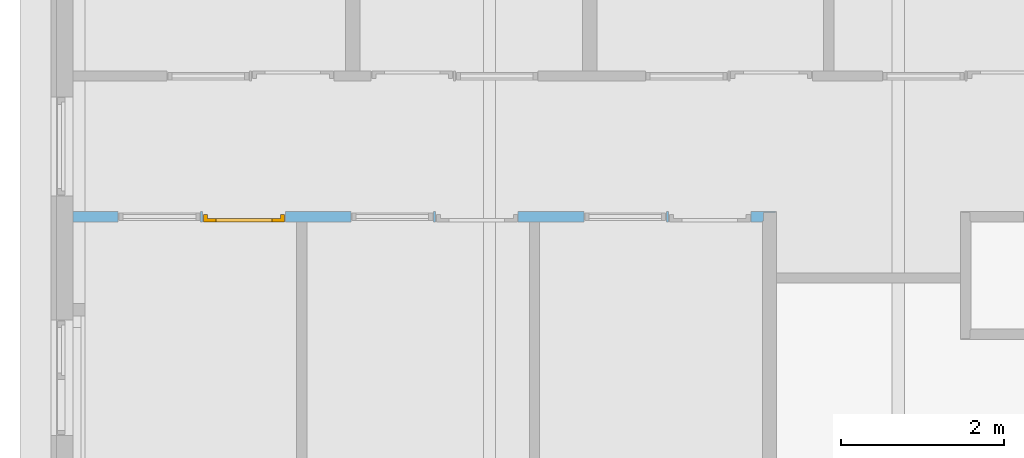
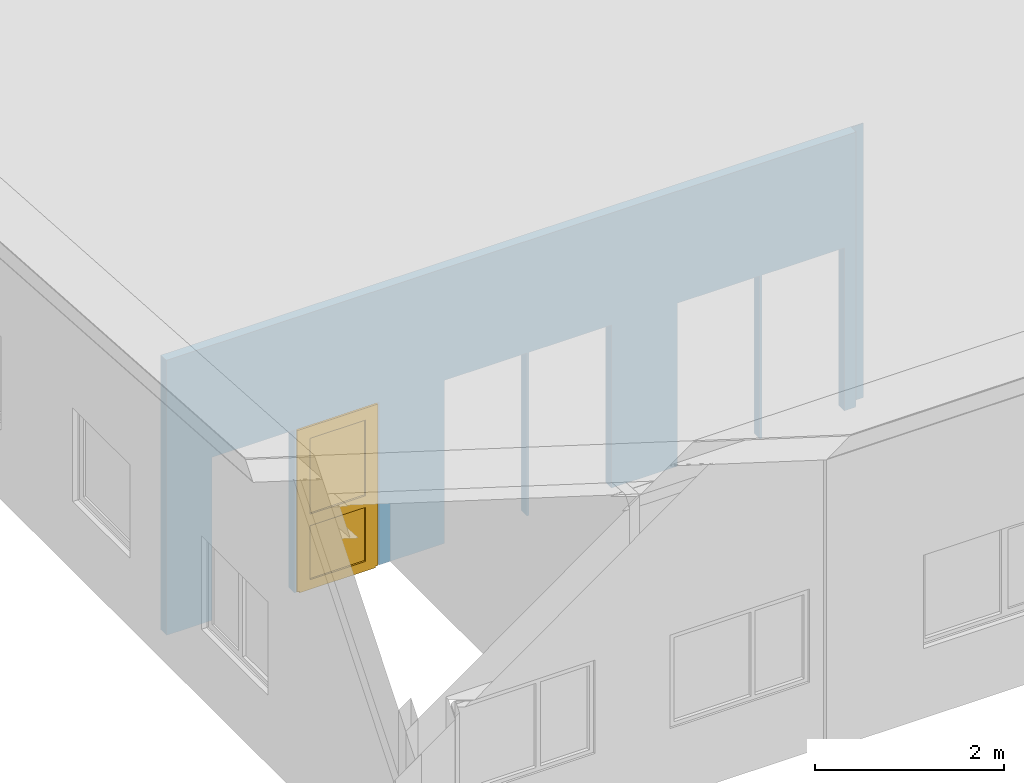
# One storey, part 11 of 37: 1 door, 6 openings, plus 1 element that does not belong to this part.
"""IFC2X3 building model written with IfcOpenShell, lengths in millimetres."""

from ifc_helpers import new_model, entity, si_unit, converted_unit, frame, frame_2d, origin, origin_with_axes, place, context, subcontext, project, spatial, polyline, rectangle, outline, extrude, clip, halfspace, faceted_brep, material, layer, layer_set, layer_usage, type_object, element, fill, save


model = new_model("IFC2X3")

# Units and contexts
model_context = context("Model", 3, precision=1e-05, world=origin())
plan_context = context("Plan", 3, precision=1e-05, world=origin())
body_context = subcontext(model_context, "Body", "Model", "MODEL_VIEW")
ifc_project = project(units=[si_unit("LENGTHUNIT", "METRE", prefix="MILLI"), converted_unit("PLANEANGLEUNIT", "DEGREE", entity("IfcPlaneAngleMeasure", 0.0174532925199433), si_unit("PLANEANGLEUNIT", "RADIAN"), dimensions=[0, 0, 0, 0, 0, 0, 0]), si_unit("AREAUNIT", "SQUARE_METRE"), si_unit("VOLUMEUNIT", "CUBIC_METRE")], contexts=[model_context, plan_context])

# Building, storey
building_placement = place(None, origin())
building = spatial("IfcBuilding", under=ifc_project, at=building_placement, Name="HEKF Administrasjonbygg", CompositionType="ELEMENT")
storey_placement = place(building_placement, frame((0.0, 0.0, 9900.0), z_axis=(0.0, 0.0, 1.0), x_axis=(1.0, 0.0, 0.0)))
storey = spatial("IfcBuildingStorey", under=building, at=storey_placement, Name="Plan 2", CompositionType="ELEMENT", Elevation=9900.0)

# Wall, openings, door
ifc_material_1 = material(Name="gips")
ifc_layer_1 = layer(ifc_material_1, 13.0)
ifc_material_2 = material(Name="riegel stål 100")
ifc_layer_2 = layer(ifc_material_2, 100.0000000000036)
ifc_material_3 = material(Name="gips")
ifc_layer_3 = layer(ifc_material_3, 13.00000000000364)
ifc_layer_set = layer_set([ifc_layer_1, ifc_layer_2, ifc_layer_3])
ifc_layer_usage = layer_usage(ifc_layer_set, "AXIS2", "POSITIVE", 0.0)
wall_placement = place(storey_placement, frame((9899.999999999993, -6924.999999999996, 0.0), z_axis=(0.0, 0.0, 1.0), x_axis=(1.0, -4.311934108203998e-16, 0.0)))
wall = element("IfcWallStandardCase", 1, at=wall_placement, inside=storey, material=ifc_layer_usage, context=body_context, shape_type="Clipping", body=[
    clip(extrude(outline(polyline([(0.0, 0.0), (8437.0, 0.0), (8437.0, 13.0), (8450.0, 13.00000000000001), (8450.0, 113.0), (8600.0, 113.0000000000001), (8600.0, 126.0000000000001), (-5.433036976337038e-14, 126.0), (0.0, 0.0)])), origin_with_axes(), (0.0, 0.0, 1.0), 3561.666666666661), halfspace(frame((0.0, 0.0, 3561.666666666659), z_axis=(1.067272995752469e-16, -0.06651901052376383, -0.9977851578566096), x_axis=(1.0, 0.0, 2.155967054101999e-16)), True)),
])
opening_1_placement = place(wall_placement, frame((6255.0, -2.728484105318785e-12, 0.0), z_axis=(0.0, 1.0, 0.0), x_axis=(0.0, 0.0, 1.0)))
element("IfcOpeningElement", 2, at=opening_1_placement, cuts=wall, Name="Window opening", ObjectType="Opening", context=body_context, shape_type="SweptSolid", body=[
    extrude(rectangle(XDim=2110.0, YDim=1010.0, at=frame_2d((1055.0, 505.0), x_axis=(1.0, 0.0))), origin_with_axes(), (0.0, 0.0, 1.0), 126.0),
])
opening_2_placement = place(wall_placement, frame((554.9999999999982, 0.0, 0.0), z_axis=(0.0, 1.0, 0.0), x_axis=(0.0, 0.0, 1.0)))
element("IfcOpeningElement", 3, at=opening_2_placement, cuts=wall, Name="Window opening", ObjectType="Opening", context=body_context, shape_type="SweptSolid", body=[
    extrude(rectangle(XDim=2110.0, YDim=1010.0, at=frame_2d((1055.0, 505.0), x_axis=(1.0, 0.0))), origin_with_axes(), (0.0, 0.0, 1.0), 126.0),
])
opening_3_placement = place(wall_placement, frame((3404.999999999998, -1.818989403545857e-12, 0.0), z_axis=(0.0, 1.0, 0.0), x_axis=(0.0, 0.0, 1.0)))
element("IfcOpeningElement", 4, at=opening_3_placement, cuts=wall, Name="Window opening", ObjectType="Opening", context=body_context, shape_type="SweptSolid", body=[
    extrude(rectangle(XDim=2110.0, YDim=1010.0, at=frame_2d((1055.0, 505.0), x_axis=(1.0, 0.0))), origin_with_axes(), (0.0, 0.0, 1.0), 126.0),
])
opening_4_placement = place(wall_placement, frame((7290.0, -3.637978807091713e-12, 0.0), z_axis=(0.0, 1.0, 0.0), x_axis=(0.0, 0.0, 1.0)))
element("IfcOpeningElement", 5, at=opening_4_placement, cuts=wall, Name="garasjeport med glassfelter:45x6", ObjectType="Opening", context=body_context, shape_type="SweptSolid", body=[
    extrude(rectangle(XDim=2110.0, YDim=1010.0, at=frame_2d((1055.0, 505.0), x_axis=(1.0, 0.0))), origin_with_axes(), (0.0, 0.0, 1.0), 126.0),
])
opening_5_placement = place(wall_placement, frame((4439.999999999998, -1.818989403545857e-12, 0.0), z_axis=(0.0, 1.0, 0.0), x_axis=(0.0, 0.0, 1.0)))
element("IfcOpeningElement", 6, at=opening_5_placement, cuts=wall, Name="garasjeport med glassfelter:45x6", ObjectType="Opening", context=body_context, shape_type="SweptSolid", body=[
    extrude(rectangle(XDim=2110.0, YDim=1010.0, at=frame_2d((1055.0, 505.0), x_axis=(1.0, 0.0))), origin_with_axes(), (0.0, 0.0, 1.0), 126.0000000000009),
])
opening_6_placement = place(wall_placement, frame((1589.999999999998, -9.094947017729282e-13, 0.0), z_axis=(0.0, 1.0, 0.0), x_axis=(0.0, 0.0, 1.0)))
opening_6 = element("IfcOpeningElement", 7, at=opening_6_placement, cuts=wall, Name="garasjeport med glassfelter:45x6", ObjectType="Opening", context=body_context, shape_type="SweptSolid", body=[
    extrude(rectangle(XDim=2110.0, YDim=1010.0, at=frame_2d((1055.0, 505.0), x_axis=(1.0, 0.0))), origin_with_axes(), (0.0, 0.0, 1.0), 126.0),
])
ifc_material_4 = material()
door_style = type_object("IfcDoorStyle", Name="D112", ConstructionType="NOTDEFINED", OperationType="USERDEFINED", ParameterTakesPrecedence=False, Sizeable=False)
door_placement = place(opening_6_placement, frame((0.0, 0.0, 0.0), z_axis=(1.0, 0.0, 0.0), x_axis=(0.0, 1.0, 0.0)))
door = element("IfcDoor", 8, at=door_placement, inside=storey, type_object=door_style, material=ifc_material_4, Name="D112", OverallHeight=2110.0, OverallWidth=1010.0, context=body_context, shape_type="Brep", body=[
    faceted_brep([(1000.0, 1.000000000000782, 2090.0), (1000.0, 1.00000000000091, -2.816687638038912e-15), (950.0, 1.000000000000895, -2.816687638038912e-15), (950.0, 1.000000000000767, 2090.0), (1000.0, 93.00000000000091, 2.816687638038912e-15), (1000.0, 93.00000000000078, 2090.0), (950.0, 93.00000000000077, 2090.0), (950.0, 93.0000000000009, 2.816687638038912e-15), (1000.0, 1.00000000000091, -2.816687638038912e-15), (1000.0, 1.000000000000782, 2090.0), (1000.0, 93.00000000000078, 2090.0), (1000.0, 93.00000000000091, 2.816687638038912e-15), (950.0, 1.000000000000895, -2.816687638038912e-15), (1000.0, 1.00000000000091, -2.816687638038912e-15), (1000.0, 93.00000000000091, 2.816687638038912e-15), (950.0, 93.0000000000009, 2.816687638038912e-15), (950.0, 1.000000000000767, 2090.0), (950.0, 1.000000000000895, -2.816687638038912e-15), (950.0, 93.0000000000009, 2.816687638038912e-15), (950.0, 93.00000000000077, 2090.0), (1000.0, 1.000000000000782, 2090.0), (950.0, 1.000000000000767, 2090.0), (950.0, 93.00000000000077, 2090.0), (1000.0, 93.00000000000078, 2090.0)], [[[0, 1, 2, 3]], [[4, 5, 6, 7]], [[8, 9, 10, 11]], [[12, 13, 14, 15]], [[16, 17, 18, 19]], [[20, 21, 22, 23]]], orient=[[False], [False], [False], [False], [False], [False]]),
    faceted_brep([(60.0, 1.000000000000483, 2090.0), (60.0, 1.000000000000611, -2.816687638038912e-15), (10.0, 1.000000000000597, -2.816687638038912e-15), (10.0, 1.000000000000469, 2090.0), (60.0, 93.00000000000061, 2.816687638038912e-15), (60.0, 93.00000000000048, 2090.0), (10.0, 93.00000000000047, 2090.0), (10.0, 93.0000000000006, 2.816687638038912e-15), (60.0, 1.000000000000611, -2.816687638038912e-15), (60.0, 1.000000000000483, 2090.0), (60.0, 93.00000000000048, 2090.0), (60.0, 93.00000000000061, 2.816687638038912e-15), (10.0, 1.000000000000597, -2.816687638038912e-15), (60.0, 1.000000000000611, -2.816687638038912e-15), (60.0, 93.00000000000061, 2.816687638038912e-15), (10.0, 93.0000000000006, 2.816687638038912e-15), (10.0, 1.000000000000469, 2090.0), (10.0, 1.000000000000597, -2.816687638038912e-15), (10.0, 93.0000000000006, 2.816687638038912e-15), (10.0, 93.00000000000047, 2090.0), (60.0, 1.000000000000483, 2090.0), (10.0, 1.000000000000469, 2090.0), (10.0, 93.00000000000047, 2090.0), (60.0, 93.00000000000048, 2090.0)], [[[0, 1, 2, 3]], [[4, 5, 6, 7]], [[8, 9, 10, 11]], [[12, 13, 14, 15]], [[16, 17, 18, 19]], [[20, 21, 22, 23]]], orient=[[False], [False], [False], [False], [False], [False]]),
    faceted_brep([(950.0, 1.000000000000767, 2090.0), (950.0, 1.000000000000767, 2040.0), (60.00000000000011, 1.000000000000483, 2040.0), (60.00000000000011, 1.000000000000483, 2090.0), (950.0, 93.00000000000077, 2040.0), (950.0, 93.00000000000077, 2090.0), (60.00000000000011, 93.00000000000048, 2090.0), (60.00000000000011, 93.00000000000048, 2040.0), (950.0, 1.000000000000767, 2040.0), (950.0, 1.000000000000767, 2090.0), (950.0, 93.00000000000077, 2090.0), (950.0, 93.00000000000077, 2040.0), (60.00000000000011, 1.000000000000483, 2040.0), (950.0, 1.000000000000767, 2040.0), (950.0, 93.00000000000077, 2040.0), (60.00000000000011, 93.00000000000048, 2040.0), (60.00000000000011, 1.000000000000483, 2090.0), (60.00000000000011, 1.000000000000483, 2040.0), (60.00000000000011, 93.00000000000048, 2040.0), (60.00000000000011, 93.00000000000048, 2090.0), (950.0, 1.000000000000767, 2090.0), (60.00000000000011, 1.000000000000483, 2090.0), (60.00000000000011, 93.00000000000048, 2090.0), (950.0, 93.00000000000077, 2090.0)], [[[0, 1, 2, 3]], [[4, 5, 6, 7]], [[8, 9, 10, 11]], [[12, 13, 14, 15]], [[16, 17, 18, 19]], [[20, 21, 22, 23]]], orient=[[False], [False], [False], [False], [False], [False]]),
    faceted_brep([(970.0, 1.000000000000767, 2060.0), (970.0, 1.000000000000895, -20.0), (845.0, 1.000000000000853, -20.0), (845.0, 1.000000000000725, 2060.0), (970.0, 41.0000000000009, -20.0), (970.0, 41.00000000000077, 2060.0), (845.0, 41.00000000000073, 2060.0), (845.0, 41.00000000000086, -20.0), (970.0, 1.000000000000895, -20.0), (970.0, 1.000000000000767, 2060.0), (970.0, 41.00000000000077, 2060.0), (970.0, 41.0000000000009, -20.0), (845.0, 1.000000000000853, -20.0), (970.0, 1.000000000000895, -20.0), (970.0, 41.0000000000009, -20.0), (845.0, 41.00000000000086, -20.0), (845.0, 1.000000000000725, 2060.0), (845.0, 1.000000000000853, -20.0), (845.0, 41.00000000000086, -20.0), (845.0, 41.00000000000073, 2060.0), (970.0, 1.000000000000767, 2060.0), (845.0, 1.000000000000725, 2060.0), (845.0, 41.00000000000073, 2060.0), (970.0, 41.00000000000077, 2060.0)], [[[0, 1, 2, 3]], [[4, 5, 6, 7]], [[8, 9, 10, 11]], [[12, 13, 14, 15]], [[16, 17, 18, 19]], [[20, 21, 22, 23]]], orient=[[False], [False], [False], [False], [False], [False]]),
    faceted_brep([(165.0000000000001, 1.000000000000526, 2060.0), (165.0000000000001, 1.000000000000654, -20.0), (40.00000000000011, 1.000000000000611, -20.0), (40.00000000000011, 1.000000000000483, 2060.0), (165.0000000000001, 41.00000000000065, -20.0), (165.0000000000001, 41.00000000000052, 2060.0), (40.00000000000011, 41.00000000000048, 2060.0), (40.00000000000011, 41.00000000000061, -20.0), (165.0000000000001, 1.000000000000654, -20.0), (165.0000000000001, 1.000000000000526, 2060.0), (165.0000000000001, 41.00000000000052, 2060.0), (165.0000000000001, 41.00000000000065, -20.0), (40.00000000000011, 1.000000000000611, -20.0), (165.0000000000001, 1.000000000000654, -20.0), (165.0000000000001, 41.00000000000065, -20.0), (40.00000000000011, 41.00000000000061, -20.0), (40.00000000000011, 1.000000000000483, 2060.0), (40.00000000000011, 1.000000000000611, -20.0), (40.00000000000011, 41.00000000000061, -20.0), (40.00000000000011, 41.00000000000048, 2060.0), (165.0000000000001, 1.000000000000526, 2060.0), (40.00000000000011, 1.000000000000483, 2060.0), (40.00000000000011, 41.00000000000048, 2060.0), (165.0000000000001, 41.00000000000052, 2060.0)], [[[0, 1, 2, 3]], [[4, 5, 6, 7]], [[8, 9, 10, 11]], [[12, 13, 14, 15]], [[16, 17, 18, 19]], [[20, 21, 22, 23]]], orient=[[False], [False], [False], [False], [False], [False]]),
    faceted_brep([(845.0, 1.000000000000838, 105.0), (845.0, 1.000000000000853, -20.0), (165.0000000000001, 1.000000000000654, -20.0), (165.0000000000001, 1.00000000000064, 105.0), (845.0, 41.00000000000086, -20.0), (845.0, 41.00000000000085, 105.0), (165.0000000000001, 41.00000000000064, 105.0), (165.0000000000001, 41.00000000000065, -20.0), (845.0, 1.000000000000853, -20.0), (845.0, 1.000000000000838, 105.0), (845.0, 41.00000000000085, 105.0), (845.0, 41.00000000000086, -20.0), (165.0000000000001, 1.000000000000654, -20.0), (845.0, 1.000000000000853, -20.0), (845.0, 41.00000000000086, -20.0), (165.0000000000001, 41.00000000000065, -20.0), (165.0000000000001, 1.00000000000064, 105.0), (165.0000000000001, 1.000000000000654, -20.0), (165.0000000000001, 41.00000000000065, -20.0), (165.0000000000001, 41.00000000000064, 105.0), (845.0, 1.000000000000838, 105.0), (165.0000000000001, 1.00000000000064, 105.0), (165.0000000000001, 41.00000000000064, 105.0), (845.0, 41.00000000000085, 105.0)], [[[0, 1, 2, 3]], [[4, 5, 6, 7]], [[8, 9, 10, 11]], [[12, 13, 14, 15]], [[16, 17, 18, 19]], [[20, 21, 22, 23]]], orient=[[False], [False], [False], [False], [False], [False]]),
    faceted_brep([(845.0, 1.000000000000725, 2060.0), (845.0, 1.000000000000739, 1935.0), (165.0000000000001, 1.00000000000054, 1935.0), (165.0000000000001, 1.000000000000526, 2060.0), (845.0, 41.00000000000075, 1935.0), (845.0, 41.00000000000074, 2060.0), (165.0000000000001, 41.00000000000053, 2060.0), (165.0000000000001, 41.00000000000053, 1935.0), (845.0, 1.000000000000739, 1935.0), (845.0, 1.000000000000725, 2060.0), (845.0, 41.00000000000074, 2060.0), (845.0, 41.00000000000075, 1935.0), (165.0000000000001, 1.00000000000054, 1935.0), (845.0, 1.000000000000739, 1935.0), (845.0, 41.00000000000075, 1935.0), (165.0000000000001, 41.00000000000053, 1935.0), (165.0000000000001, 1.000000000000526, 2060.0), (165.0000000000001, 1.00000000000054, 1935.0), (165.0000000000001, 41.00000000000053, 1935.0), (165.0000000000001, 41.00000000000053, 2060.0), (845.0, 1.000000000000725, 2060.0), (165.0000000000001, 1.000000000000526, 2060.0), (165.0000000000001, 41.00000000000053, 2060.0), (845.0, 41.00000000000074, 2060.0)], [[[0, 1, 2, 3]], [[4, 5, 6, 7]], [[8, 9, 10, 11]], [[12, 13, 14, 15]], [[16, 17, 18, 19]], [[20, 21, 22, 23]]], orient=[[False], [False], [False], [False], [False], [False]]),
    faceted_brep([(845.0, 1.000000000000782, 955.0), (845.0, 1.000000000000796, 805.0), (165.0000000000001, 1.000000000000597, 805.0), (165.0000000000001, 1.000000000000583, 955.0), (845.0, 41.0000000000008, 805.0), (845.0, 41.0000000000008, 955.0), (165.0000000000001, 41.00000000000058, 955.0), (165.0000000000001, 41.00000000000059, 805.0), (845.0, 1.000000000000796, 805.0), (845.0, 1.000000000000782, 955.0), (845.0, 41.0000000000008, 955.0), (845.0, 41.0000000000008, 805.0), (165.0000000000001, 1.000000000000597, 805.0), (845.0, 1.000000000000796, 805.0), (845.0, 41.0000000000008, 805.0), (165.0000000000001, 41.00000000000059, 805.0), (165.0000000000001, 1.000000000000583, 955.0), (165.0000000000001, 1.000000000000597, 805.0), (165.0000000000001, 41.00000000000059, 805.0), (165.0000000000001, 41.00000000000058, 955.0), (845.0, 1.000000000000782, 955.0), (165.0000000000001, 1.000000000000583, 955.0), (165.0000000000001, 41.00000000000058, 955.0), (845.0, 41.0000000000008, 955.0)], [[[0, 1, 2, 3]], [[4, 5, 6, 7]], [[8, 9, 10, 11]], [[12, 13, 14, 15]], [[16, 17, 18, 19]], [[20, 21, 22, 23]]], orient=[[False], [False], [False], [False], [False], [False]]),
    faceted_brep([(845.0, 21.00000000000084, 105.0), (165.0000000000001, 21.00000000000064, 105.0), (165.0000000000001, 21.0000000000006, 805.0), (845.0, 21.0000000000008, 805.0), (845.0, 22.00000000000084, 105.0), (845.0, 22.0000000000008, 805.0), (165.0000000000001, 22.0000000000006, 805.0), (165.0000000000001, 22.00000000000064, 105.0), (845.0, 21.00000000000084, 105.0), (845.0, 22.00000000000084, 105.0), (165.0000000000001, 22.00000000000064, 105.0), (165.0000000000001, 21.00000000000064, 105.0), (165.0000000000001, 21.00000000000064, 105.0), (165.0000000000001, 22.00000000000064, 105.0), (165.0000000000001, 22.0000000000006, 805.0), (165.0000000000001, 21.0000000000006, 805.0), (165.0000000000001, 21.0000000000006, 805.0), (165.0000000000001, 22.0000000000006, 805.0), (845.0, 22.0000000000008, 805.0), (845.0, 21.0000000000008, 805.0), (845.0, 21.0000000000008, 805.0), (845.0, 22.0000000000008, 805.0), (845.0, 22.00000000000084, 105.0), (845.0, 21.00000000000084, 105.0)], [[[0, 1, 2, 3]], [[4, 5, 6, 7]], [[8, 9, 10, 11]], [[12, 13, 14, 15]], [[16, 17, 18, 19]], [[20, 21, 22, 23]]], orient=[[False], [False], [False], [False], [False], [False]]),
    faceted_brep([(845.0, 21.0000000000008, 955.0), (165.0000000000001, 21.0000000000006, 955.0), (165.0000000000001, 21.00000000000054, 1935.0), (845.0, 21.00000000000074, 1935.0), (845.0, 22.0000000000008, 955.0), (845.0, 22.00000000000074, 1935.0), (165.0000000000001, 22.00000000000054, 1935.0), (165.0000000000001, 22.0000000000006, 955.0), (845.0, 21.0000000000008, 955.0), (845.0, 22.0000000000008, 955.0), (165.0000000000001, 22.0000000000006, 955.0), (165.0000000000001, 21.0000000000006, 955.0), (165.0000000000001, 21.0000000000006, 955.0), (165.0000000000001, 22.0000000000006, 955.0), (165.0000000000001, 22.00000000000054, 1935.0), (165.0000000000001, 21.00000000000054, 1935.0), (165.0000000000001, 21.00000000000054, 1935.0), (165.0000000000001, 22.00000000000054, 1935.0), (845.0, 22.00000000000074, 1935.0), (845.0, 21.00000000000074, 1935.0), (845.0, 21.00000000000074, 1935.0), (845.0, 22.00000000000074, 1935.0), (845.0, 22.0000000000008, 955.0), (845.0, 21.0000000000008, 955.0)], [[[0, 1, 2, 3]], [[4, 5, 6, 7]], [[8, 9, 10, 11]], [[12, 13, 14, 15]], [[16, 17, 18, 19]], [[20, 21, 22, 23]]], orient=[[False], [False], [False], [False], [False], [False]]),
])
fill(opening_6, door)

save(model, "model.ifc")
